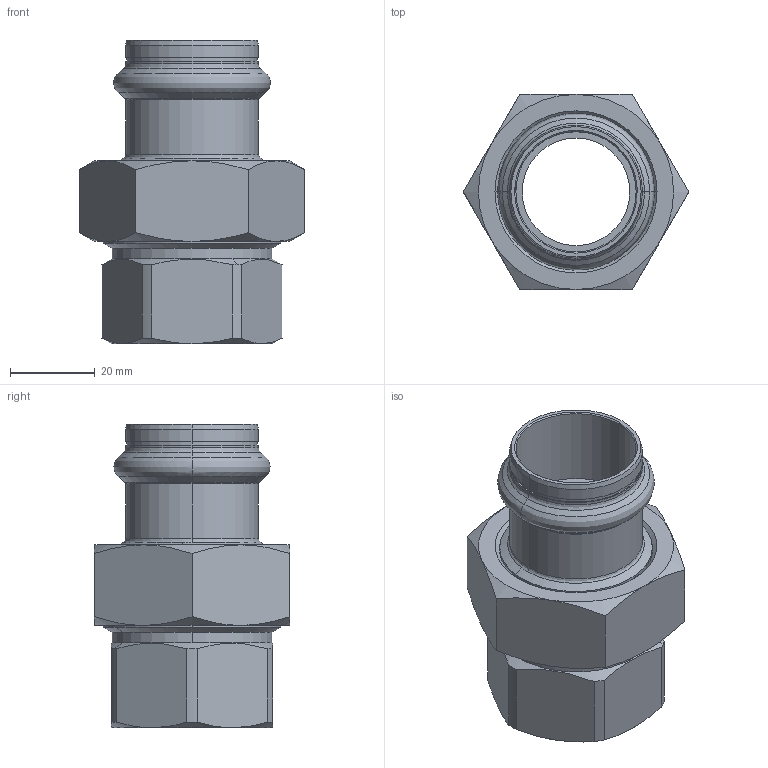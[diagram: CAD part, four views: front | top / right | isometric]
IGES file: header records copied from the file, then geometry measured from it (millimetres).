
Start section: Elysium IGES Interface
Global section: file name: F:\3d modellen sudo\S-Pr VP\SP6330GV\6330GVW281.igs; native system: CoCreate Modeling 17.00A  17-Jun-2010; preprocessor: CoCreate IGES_3D V2.2; author: Unknown; organization: Unknown; date: 20130129.094106; units: millimetre
Bounding box: 53.12 x 46 x 71.5 mm (x, y, z)
Volume: 39782.6 mm3; surface area: 23834.1 mm2
Topology: 3 solids, 3 shells, 130 faces, 312 edges, 186 vertices
Faces by surface type: bspline 130
